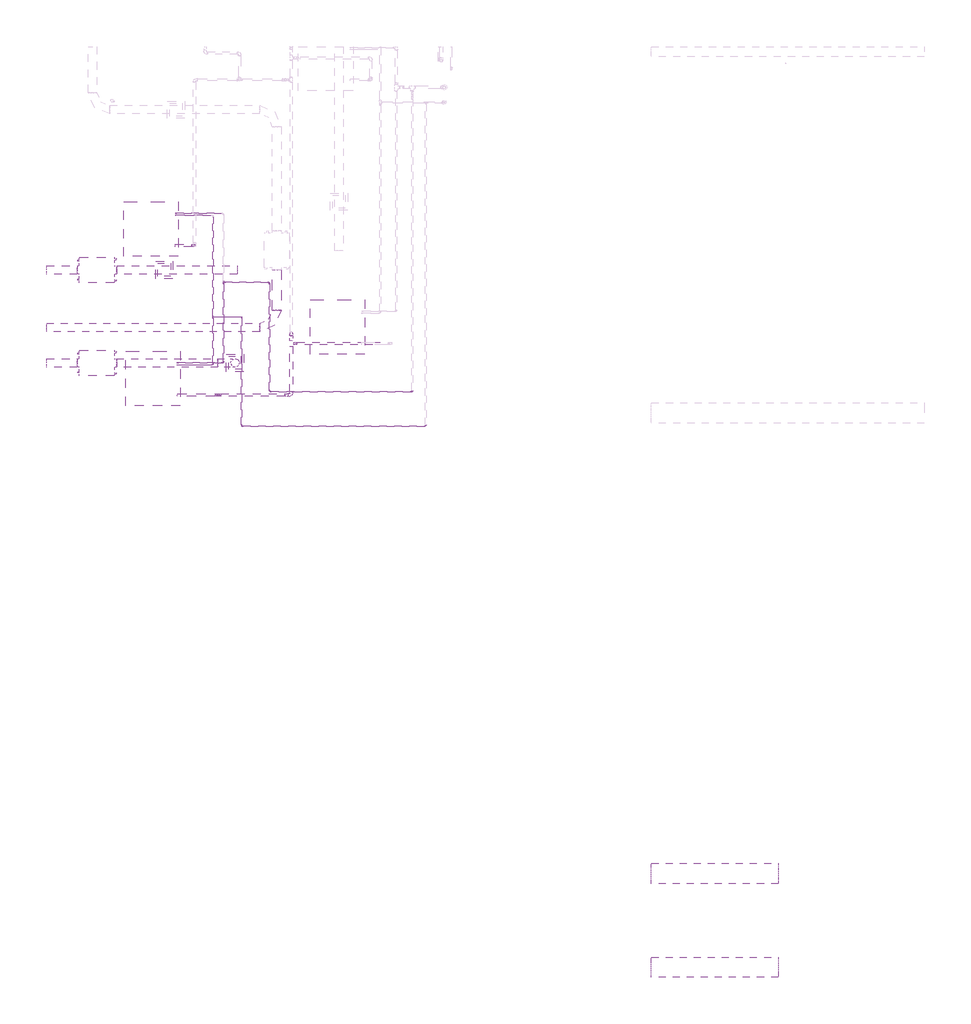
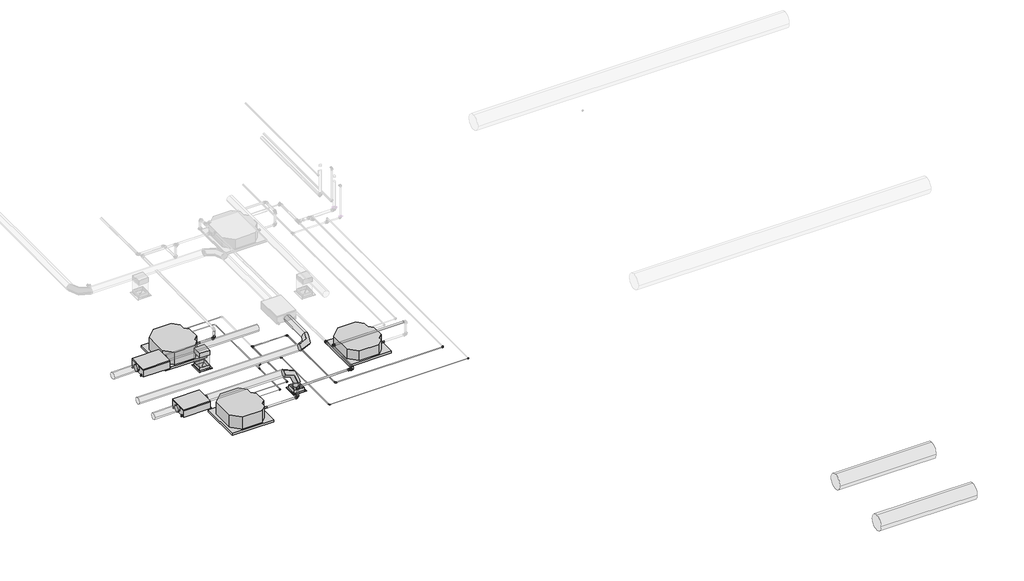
# One storey, part 1 of 21: 22 pipe fittings, 22 pipe segments, 10 duct segments, 5 proxies, 4 duct fittings, 2 air terminals.
"""IFC4 building model written with IfcOpenShell, lengths in millimetres."""

from ifc_helpers import new_model, si_unit, point, frame, frame_2d, origin, place, context, project, spatial, polyline, circle_curve, trimmed, segment, composite_curve, outline, extrude, transform, mapped, element, save
from components import sdq3535_a75e83f7, mechanical_equipment_77aa587a, mechanical_equipment_53173f38, fh_fh_150_19aaf5c2, duct_fitting_834ffa43, duct_fitting_4c01d837, duct_fitting_2_d_e46ba55a, pipe_fitting_b009a99b, pipe_fitting_485d179d, pipe_fitting_757192a1, pipe_fitting_36148165, pipe_fitting_45771724, pipe_fitting_853bb782, pipe_fitting_c900cfc2, pipe_fitting_16c020f5, pipe_fitting_b10472de, pipe_fitting_501e5992, pipe_fitting_59d1f3e3, pipe_fitting_648138cd, pipe_fitting_725bd888

model = new_model("IFC4")

# Units and contexts
model_context = context("Model", 3, world=origin())
ifc_project = project(units=[si_unit("LENGTHUNIT", "METRE", prefix="MILLI")], contexts=[model_context])

# Site, building, storey
site = spatial("IfcSite", under=ifc_project)
building = spatial("IfcBuilding", under=site)
storey = spatial("IfcBuildingStorey", under=building, Name="Nível 1", Elevation=0.0)

# Air terminals
placement = place(None, origin())
sdq3535_shape = sdq3535_a75e83f7(model_context)
element("IfcAirTerminal", 1, ObjectType="11 - Difusor Quadrado : SDQ3535", at=placement, inside=storey, context=model_context, shape_type="MappedRepresentation", body=[
    mapped(sdq3535_shape, transform((-11358.7786565, -6226.2114568, 3000.0), x_axis=(0.0, -1.0, 0.0), y_axis=(1.0, 0.0, 0.0), z_axis=(0.0, 0.0, 1.0))),
])
element("IfcAirTerminal", 2, ObjectType="11 - Difusor Quadrado : SDQ3535", at=placement, inside=storey, context=model_context, shape_type="MappedRepresentation", body=[
    mapped(sdq3535_shape, transform((-10127.886399, -7841.7404447, 3000.0), x_axis=(0.0, 1.0, 0.0), y_axis=(-1.0, 0.0, 0.0), z_axis=(0.0, 0.0, 1.0))),
])

# Proxies
mechanical_equipment_shape = mechanical_equipment_77aa587a(model_context)
element("IfcBuildingElementProxy", 3, Name="Midea_VRF_Indoor_4-way Cassette_MI-56(71,80)Q4_DHN1-D (2nd DC) : MI2-71Q4DHN1", ObjectType="Midea_VRF_Indoor_4-way Cassette_MI-56(71,80)Q4_DHN1-D (2nd DC) : MI2-71Q4DHN1", at=placement, inside=storey, context=model_context, shape_type="MappedRepresentation", body=[
    mapped(mechanical_equipment_shape, transform((-8350.4324434, -7218.7123683, 3000.0), x_axis=(1.0, 0.0, 0.0), y_axis=(0.0, 1.0, 0.0), z_axis=(0.0, 0.0, 1.0))),
])
mechanical_equipment_2_shape = mechanical_equipment_53173f38(model_context)
element("IfcBuildingElementProxy", 4, Name="Midea_VRF_Indoor_4-way Cassette_MI-90(100,112,140)Q4_DHN1-D (2nd DC) : MI2-90Q4DHN1", ObjectType="Midea_VRF_Indoor_4-way Cassette_MI-90(100,112,140)Q4_DHN1-D (2nd DC) : MI2-90Q4DHN1", at=placement, inside=storey, context=model_context, shape_type="MappedRepresentation", body=[
    mapped(mechanical_equipment_2_shape, transform((-11555.0196229, -8114.9512583, 3000.0), x_axis=(1.0, 0.0, 0.0), y_axis=(0.0, 1.0, 0.0), z_axis=(0.0, 0.0, 1.0))),
])
element("IfcBuildingElementProxy", 5, Name="Midea_VRF_Indoor_4-way Cassette_MI-90(100,112,140)Q4_DHN1-D (2nd DC) : MI2-90Q4DHN1", ObjectType="Midea_VRF_Indoor_4-way Cassette_MI-90(100,112,140)Q4_DHN1-D (2nd DC) : MI2-90Q4DHN1", at=placement, inside=storey, context=model_context, shape_type="MappedRepresentation", body=[
    mapped(mechanical_equipment_2_shape, transform((-11592.1617535, -5516.2147432, 3000.0), x_axis=(1.0, 0.0, 0.0), y_axis=(0.0, 1.0, 0.0), z_axis=(0.0, 0.0, 1.0))),
])
fh_fh_150_shape = fh_fh_150_19aaf5c2(model_context)
element("IfcBuildingElementProxy", 6, Name="FH : FH 150", ObjectType="FH : FH 150", at=placement, inside=storey, context=model_context, shape_type="MappedRepresentation", body=[
    mapped(fh_fh_150_shape, transform((-12529.886399, -6226.2114568, 3400.0), x_axis=(0.0, 1.0, 0.0), y_axis=(-1.0, 0.0, 0.0), z_axis=(0.0, 0.0, 1.0))),
])
element("IfcBuildingElementProxy", 7, Name="FH : FH 150", ObjectType="FH : FH 150", at=placement, inside=storey, context=model_context, shape_type="MappedRepresentation", body=[
    mapped(fh_fh_150_shape, transform((-12529.886399, -7841.7404447, 3400.0), x_axis=(0.0, 1.0, 0.0), y_axis=(-1.0, 0.0, 0.0), z_axis=(0.0, 0.0, 1.0))),
])

# Duct fittings
duct_fitting_shape = duct_fitting_834ffa43(model_context)
element("IfcDuctFitting", 8, ObjectType="M_Transição retangular para oval - Ângulo : 45 Graus", at=placement, inside=storey, context=model_context, shape_type="MappedRepresentation", body=[
    mapped(duct_fitting_shape, transform((-10127.886399, -7841.7404447, 3005.0), x_axis=(0.0, 0.0, 1.0), y_axis=(0.0, 1.0, 0.0), z_axis=(-1.0, 0.0, 0.0))),
])
duct_fitting_2_shape = duct_fitting_4c01d837(model_context)
element("IfcDuctFitting", 9, ObjectType="M_Encaixe de duto retangular : Padrão", at=placement, inside=storey, context=model_context, shape_type="MappedRepresentation", body=[
    mapped(duct_fitting_2_shape, transform((-11358.7786565, -6226.2114568, 3418.5), x_axis=(0.0, 0.0, -1.0), y_axis=(-1.0, 0.0, 0.0), z_axis=(0.0, 1.0, 0.0))),
])
duct_fitting_2_d_shape = duct_fitting_2_d_e46ba55a(model_context)
element("IfcDuctFitting", 10, ObjectType="M_Cotovelo redondo : 2 D", at=placement, inside=storey, context=model_context, shape_type="MappedRepresentation", body=[
    mapped(duct_fitting_2_d_shape, transform((-9404.386399, -7226.2114568, 3493.0), x_axis=(1.0, 0.0, 0.0), y_axis=(0.0, 1.0, 0.0), z_axis=(0.0, 0.0, 1.0))),
])
element("IfcDuctFitting", 11, ObjectType="M_Cotovelo redondo : 2 D", at=placement, inside=storey, context=model_context, shape_type="MappedRepresentation", body=[
    mapped(duct_fitting_2_d_shape, transform((-10127.886399, -7841.7404447, 3493.0), x_axis=(0.0, 0.0, 1.0), y_axis=(-1.0, 0.0, 0.0), z_axis=(0.0, -1.0, 0.0))),
])

# Duct segments
element("IfcDuctSegment", 12, ObjectType="Torneiras / Raio curto", at=placement, inside=storey, context=model_context, shape_type="SweptSolid", body=[
    extrude(outline(composite_curve([segment(trimmed(circle_curve(frame_2d((3493.0, -9404.386399)), 74.5), [point((3493.0, -9478.886399))], [point((3418.5, -9404.386399))], False, "CARTESIAN"), True, "CONTINUOUS"), segment(trimmed(circle_curve(frame_2d((3493.0, -9404.386399)), 74.5), [point((3418.5, -9404.386399))], [point((3493.0, -9329.886399))], False, "CARTESIAN"), True, "CONTINUOUS"), segment(trimmed(circle_curve(frame_2d((3493.0, -9404.386399)), 74.5), [point((3493.0, -9329.886399))], [point((3567.5, -9404.386399))], False, "CARTESIAN"), True, "CONTINUOUS"), segment(trimmed(circle_curve(frame_2d((3493.0, -9404.386399)), 74.5), [point((3567.5, -9404.386399))], [point((3493.0, -9478.886399))], False, "CARTESIAN"), True, "CONTINUOUS")], self_intersect=False)), frame((0.0, -6928.2114568, 0.0), z_axis=(0.0, 1.0, 0.0), x_axis=(0.0, 0.0, 1.0)), (0.0, 0.0, 1.0), 702.0),
])
element("IfcDuctSegment", 13, ObjectType="Torneiras / Raio curto", at=placement, inside=storey, context=model_context, shape_type="SweptSolid", body=[
    extrude(outline(composite_curve([segment(trimmed(circle_curve(frame_2d((-7226.2114568, 3493.0)), 74.5), [point((-7151.7114568, 3493.0))], [point((-7226.2114568, 3418.5))], False, "CARTESIAN"), True, "CONTINUOUS"), segment(trimmed(circle_curve(frame_2d((-7226.2114568, 3493.0)), 74.5), [point((-7226.2114568, 3418.5))], [point((-7300.7114568, 3493.0))], False, "CARTESIAN"), True, "CONTINUOUS"), segment(trimmed(circle_curve(frame_2d((-7226.2114568, 3493.0)), 74.5), [point((-7300.7114568, 3493.0))], [point((-7226.2114568, 3567.5))], False, "CARTESIAN"), True, "CONTINUOUS"), segment(trimmed(circle_curve(frame_2d((-7226.2114568, 3493.0)), 74.5), [point((-7226.2114568, 3567.5))], [point((-7151.7114568, 3493.0))], False, "CARTESIAN"), True, "CONTINUOUS")], self_intersect=False)), frame((-13404.386399, 0.0, 0.0), z_axis=(1.0, 0.0, 0.0), x_axis=(0.0, 1.0, 0.0)), (0.0, 0.0, 1.0), 3702.0),
])
element("IfcDuctSegment", 14, ObjectType="Torneiras / Raio curto", at=placement, inside=storey, context=model_context, shape_type="SweptSolid", body=[
    extrude(outline(composite_curve([segment(trimmed(circle_curve(frame_2d((-7841.7404447, 3493.0)), 74.5), [point((-7767.2404447, 3493.0))], [point((-7841.7404447, 3418.5))], False, "CARTESIAN"), True, "CONTINUOUS"), segment(trimmed(circle_curve(frame_2d((-7841.7404447, 3493.0)), 74.5), [point((-7841.7404447, 3418.5))], [point((-7916.2404447, 3493.0))], False, "CARTESIAN"), True, "CONTINUOUS"), segment(trimmed(circle_curve(frame_2d((-7841.7404447, 3493.0)), 74.5), [point((-7916.2404447, 3493.0))], [point((-7841.7404447, 3567.5))], False, "CARTESIAN"), True, "CONTINUOUS"), segment(trimmed(circle_curve(frame_2d((-7841.7404447, 3493.0)), 74.5), [point((-7841.7404447, 3567.5))], [point((-7767.2404447, 3493.0))], False, "CARTESIAN"), True, "CONTINUOUS")], self_intersect=False)), frame((-13404.386399, 0.0, 0.0), z_axis=(1.0, 0.0, 0.0), x_axis=(0.0, 1.0, 0.0)), (0.0, 0.0, 1.0), 532.5),
])
element("IfcDuctSegment", 15, ObjectType="Torneiras / Raio curto", at=placement, inside=storey, context=model_context, shape_type="SweptSolid", body=[
    extrude(outline(composite_curve([segment(trimmed(circle_curve(frame_2d((-6226.2114568, 3493.0)), 74.5), [point((-6151.7114568, 3493.0))], [point((-6226.2114568, 3418.5))], False, "CARTESIAN"), True, "CONTINUOUS"), segment(trimmed(circle_curve(frame_2d((-6226.2114568, 3493.0)), 74.5), [point((-6226.2114568, 3418.5))], [point((-6300.7114568, 3493.0))], False, "CARTESIAN"), True, "CONTINUOUS"), segment(trimmed(circle_curve(frame_2d((-6226.2114568, 3493.0)), 74.5), [point((-6300.7114568, 3493.0))], [point((-6226.2114568, 3567.5))], False, "CARTESIAN"), True, "CONTINUOUS"), segment(trimmed(circle_curve(frame_2d((-6226.2114568, 3493.0)), 74.5), [point((-6226.2114568, 3567.5))], [point((-6151.7114568, 3493.0))], False, "CARTESIAN"), True, "CONTINUOUS")], self_intersect=False)), frame((-13404.386399, 0.0, 0.0), z_axis=(1.0, 0.0, 0.0), x_axis=(0.0, 1.0, 0.0)), (0.0, 0.0, 1.0), 532.5),
])
element("IfcDuctSegment", 16, ObjectType="Torneiras / Raio curto", at=placement, inside=storey, context=model_context, shape_type="SweptSolid", body=[
    extrude(outline(composite_curve([segment(trimmed(circle_curve(frame_2d((-6226.2114568, 3493.0)), 74.5), [point((-6300.7114568, 3493.0))], [point((-6226.2114568, 3567.5))], False, "CARTESIAN"), True, "CONTINUOUS"), segment(trimmed(circle_curve(frame_2d((-6226.2114568, 3493.0)), 74.5), [point((-6226.2114568, 3567.5))], [point((-6151.7114568, 3493.0))], False, "CARTESIAN"), True, "CONTINUOUS"), segment(trimmed(circle_curve(frame_2d((-6226.2114568, 3493.0)), 74.5), [point((-6151.7114568, 3493.0))], [point((-6226.2114568, 3418.5))], False, "CARTESIAN"), True, "CONTINUOUS"), segment(trimmed(circle_curve(frame_2d((-6226.2114568, 3493.0)), 74.5), [point((-6226.2114568, 3418.5))], [point((-6300.7114568, 3493.0))], False, "CARTESIAN"), True, "CONTINUOUS")], self_intersect=False)), frame((-12187.886399, 0.0, 0.0), z_axis=(1.0, 0.0, 0.0), x_axis=(0.0, 1.0, 0.0)), (0.0, 0.0, 1.0), 2100.0),
])
element("IfcDuctSegment", 17, ObjectType="Torneiras / Raio curto", at=placement, inside=storey, context=model_context, shape_type="SweptSolid", body=[
    extrude(outline(composite_curve([segment(trimmed(circle_curve(frame_2d((-7841.7404447, 3493.0)), 74.5), [point((-7916.2404447, 3493.0))], [point((-7841.7404447, 3567.5))], False, "CARTESIAN"), True, "CONTINUOUS"), segment(trimmed(circle_curve(frame_2d((-7841.7404447, 3493.0)), 74.5), [point((-7841.7404447, 3567.5))], [point((-7767.2404447, 3493.0))], False, "CARTESIAN"), True, "CONTINUOUS"), segment(trimmed(circle_curve(frame_2d((-7841.7404447, 3493.0)), 74.5), [point((-7767.2404447, 3493.0))], [point((-7841.7404447, 3418.5))], False, "CARTESIAN"), True, "CONTINUOUS"), segment(trimmed(circle_curve(frame_2d((-7841.7404447, 3493.0)), 74.5), [point((-7841.7404447, 3418.5))], [point((-7916.2404447, 3493.0))], False, "CARTESIAN"), True, "CONTINUOUS")], self_intersect=False)), frame((-12187.886399, 0.0, 0.0), z_axis=(1.0, 0.0, 0.0), x_axis=(0.0, 1.0, 0.0)), (0.0, 0.0, 1.0), 1762.0),
])
element("IfcDuctSegment", 18, ObjectType="Raios cotovelos / torneiras", at=placement, inside=storey, context=model_context, shape_type="SweptSolid", body=[
    extrude(outline(polyline([(-11246.2786565, -6338.7114568), (-11471.2786565, -6338.7114568), (-11471.2786565, -6113.7114568), (-11246.2786565, -6113.7114568), (-11246.2786565, -6338.7114568)])), frame((0.0, 0.0, 3005.0), z_axis=(0.0, 0.0, 1.0), x_axis=(1.0, 0.0, 0.0)), (0.0, 0.0, 1.0), 311.9),
])
element("IfcDuctSegment", 19, ObjectType="Torneiras / Raio curto", at=placement, inside=storey, context=model_context, shape_type="SweptSolid", body=[
    extrude(outline(composite_curve([segment(trimmed(circle_curve(frame_2d((-10127.886399, -7841.7404447)), 74.5), [point((-10127.886399, -7767.2404447))], [point((-10053.386399, -7841.7404447))], False, "CARTESIAN"), True, "CONTINUOUS"), segment(trimmed(circle_curve(frame_2d((-10127.886399, -7841.7404447)), 74.5), [point((-10053.386399, -7841.7404447))], [point((-10127.886399, -7916.2404447))], False, "CARTESIAN"), True, "CONTINUOUS"), segment(trimmed(circle_curve(frame_2d((-10127.886399, -7841.7404447)), 74.5), [point((-10127.886399, -7916.2404447))], [point((-10202.386399, -7841.7404447))], False, "CARTESIAN"), True, "CONTINUOUS"), segment(trimmed(circle_curve(frame_2d((-10127.886399, -7841.7404447)), 74.5), [point((-10202.386399, -7841.7404447))], [point((-10127.886399, -7767.2404447))], False, "CARTESIAN"), True, "CONTINUOUS")], self_intersect=False)), frame((0.0, 0.0, 3096.7401154), z_axis=(0.0, 0.0, 1.0), x_axis=(1.0, 0.0, 0.0)), (0.0, 0.0, 1.0), 98.2598846),
])
element("IfcDuctSegment", 20, ObjectType="Torneiras / Raio curto", at=placement, inside=storey, context=model_context, shape_type="SweptSolid", body=[
    extrude(outline(composite_curve([segment(trimmed(circle_curve(frame_2d((-16711.4180027, 3605.0)), 177.5), [point((-16533.9180027, 3605.0))], [point((-16711.4180027, 3427.5))], False, "CARTESIAN"), True, "CONTINUOUS"), segment(trimmed(circle_curve(frame_2d((-16711.4180027, 3605.0)), 177.5), [point((-16711.4180027, 3427.5))], [point((-16888.9180027, 3605.0))], False, "CARTESIAN"), True, "CONTINUOUS"), segment(trimmed(circle_curve(frame_2d((-16711.4180027, 3605.0)), 177.5), [point((-16888.9180027, 3605.0))], [point((-16711.4180027, 3782.5))], False, "CARTESIAN"), True, "CONTINUOUS"), segment(trimmed(circle_curve(frame_2d((-16711.4180027, 3605.0)), 177.5), [point((-16711.4180027, 3782.5))], [point((-16533.9180027, 3605.0))], False, "CARTESIAN"), True, "CONTINUOUS")], self_intersect=False)), frame((-2892.5218355, 0.0, 0.0), z_axis=(1.0, 0.0, 0.0), x_axis=(0.0, 1.0, 0.0)), (0.0, 0.0, 1.0), 2200.0),
])
element("IfcDuctSegment", 21, ObjectType="Torneiras / Raio curto", at=placement, inside=storey, context=model_context, shape_type="SweptSolid", body=[
    extrude(outline(composite_curve([segment(trimmed(circle_curve(frame_2d((-18343.7697994, 3605.0)), 177.5), [point((-18166.2697994, 3605.0))], [point((-18343.7697994, 3427.5))], False, "CARTESIAN"), True, "CONTINUOUS"), segment(trimmed(circle_curve(frame_2d((-18343.7697994, 3605.0)), 177.5), [point((-18343.7697994, 3427.5))], [point((-18521.2697994, 3605.0))], False, "CARTESIAN"), True, "CONTINUOUS"), segment(trimmed(circle_curve(frame_2d((-18343.7697994, 3605.0)), 177.5), [point((-18521.2697994, 3605.0))], [point((-18343.7697994, 3782.5))], False, "CARTESIAN"), True, "CONTINUOUS"), segment(trimmed(circle_curve(frame_2d((-18343.7697994, 3605.0)), 177.5), [point((-18343.7697994, 3782.5))], [point((-18166.2697994, 3605.0))], False, "CARTESIAN"), True, "CONTINUOUS")], self_intersect=False)), frame((-2892.5218355, 0.0, 0.0), z_axis=(1.0, 0.0, 0.0), x_axis=(0.0, 1.0, 0.0)), (0.0, 0.0, 1.0), 2200.0),
])

# Pipe fittings
pipe_fitting_shape = pipe_fitting_b009a99b(model_context)
element("IfcPipeFitting", 22, ObjectType="Cotovelo - PVC - CW : Padrão", at=placement, inside=storey, context=model_context, shape_type="MappedRepresentation", body=[
    mapped(pipe_fitting_shape, transform((-10424.419623, -8399.9512583, 3252.3), x_axis=(0.0, 0.0, -1.0), y_axis=(-1.0, 0.0, 0.0), z_axis=(0.0, 1.0, 0.0))),
])
pipe_fitting_2_shape = pipe_fitting_485d179d(model_context)
element("IfcPipeFitting", 23, ObjectType="Cotovelo - PVC - CW : Padrão", at=placement, inside=storey, context=model_context, shape_type="MappedRepresentation", body=[
    mapped(pipe_fitting_2_shape, transform((-10424.419623, -8399.9512583, 3493.1989554), x_axis=(0.0, 0.0, 1.0), y_axis=(0.9999999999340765, -1.1482468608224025e-05, 0.0), z_axis=(1.1482468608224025e-05, 0.9999999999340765, 0.0))),
])
pipe_fitting_3_shape = pipe_fitting_757192a1(model_context)
element("IfcPipeFitting", 24, ObjectType="Cotovelo - PVC - CW : Padrão", at=placement, inside=storey, context=model_context, shape_type="MappedRepresentation", body=[
    mapped(pipe_fitting_3_shape, transform((-9153.185193, -8399.9658552, 3505.8260576), x_axis=(0.9999506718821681, -1.148190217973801e-05, 0.009932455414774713), y_axis=(0.00010803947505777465, 0.9999527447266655, -0.00972093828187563), z_axis=(-0.009931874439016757, 0.009721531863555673, 0.9999034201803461))),
])
pipe_fitting_4_shape = pipe_fitting_36148165(model_context)
element("IfcPipeFitting", 25, ObjectType="Redutor de acoplamento - PVC - CW : Padrão", at=placement, inside=storey, context=model_context, shape_type="MappedRepresentation", body=[
    mapped(pipe_fitting_4_shape, transform((-9105.585193, -7503.7123683, 3497.1122592), x_axis=(1.0, 0.0, 0.0), y_axis=(0.0, 0.9999527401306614, -0.009722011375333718), z_axis=(0.0, 0.009722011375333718, 0.9999527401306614))),
])
pipe_fitting_5_shape = pipe_fitting_45771724(model_context)
element("IfcPipeFitting", 26, ObjectType="Cotovelo - PVC - CW : Padrão", at=placement, inside=storey, context=model_context, shape_type="MappedRepresentation", body=[
    mapped(pipe_fitting_5_shape, transform((-10832.1622686, -5801.2147432, 3252.3010078), x_axis=(0.9999999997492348, 0.0, -2.2394877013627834e-05), y_axis=(2.2394877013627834e-05, 0.0, 0.9999999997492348), z_axis=(0.0, -1.0, 0.0))),
])
pipe_fitting_6_shape = pipe_fitting_853bb782(model_context)
element("IfcPipeFitting", 27, ObjectType="Redutor de acoplamento - PVC - CW : Padrão", at=placement, inside=storey, context=model_context, shape_type="MappedRepresentation", body=[
    mapped(pipe_fitting_6_shape, transform((-9207.1855545, -8399.9652352, 3505.289675), x_axis=(-0.9999506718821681, 1.148190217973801e-05, -0.009932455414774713), y_axis=(-0.00010803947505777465, -0.9999527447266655, 0.00972093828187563), z_axis=(-0.009931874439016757, 0.009721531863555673, 0.9999034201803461))),
])
element("IfcPipeFitting", 28, ObjectType="Redutor de acoplamento - PVC - CW : Padrão", at=placement, inside=storey, context=model_context, shape_type="MappedRepresentation", body=[
    mapped(pipe_fitting_6_shape, transform((-9153.185193, -7366.7690646, 3495.7808319), x_axis=(0.0, 0.9999527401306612, -0.009722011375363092), y_axis=(-1.0000000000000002, 0.0, 0.0), z_axis=(0.0, 0.009722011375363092, 0.9999527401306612))),
])
pipe_fitting_7_shape = pipe_fitting_c900cfc2(model_context)
element("IfcPipeFitting", 29, ObjectType="Bucha de redução reta - Soldada - CU : Padrão", at=placement, inside=storey, context=model_context, shape_type="MappedRepresentation", body=[
    mapped(pipe_fitting_7_shape, transform((-11167.1617535, -5243.0039295, 3252.3085101), x_axis=(1.0, 0.0, 0.0), y_axis=(0.0, 1.0, 0.0), z_axis=(0.0, 0.0, 1.0))),
])
pipe_fitting_8_shape = pipe_fitting_16c020f5(model_context)
element("IfcPipeFitting", 30, ObjectType="Cotovelo - Soldado - CU : Padrão", at=placement, inside=storey, context=model_context, shape_type="MappedRepresentation", body=[
    mapped(pipe_fitting_8_shape, transform((-9530.0196229, -6442.3721871, 3252.3089164), x_axis=(0.0, 0.9999999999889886, 4.69285938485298e-06), y_axis=(-0.999999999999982, 0.0, 1.9041490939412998e-07), z_axis=(1.904149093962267e-07, -4.692859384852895e-06, 0.9999999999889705))),
])
element("IfcPipeFitting", 31, ObjectType="Cotovelo - Soldado - CU : Padrão", at=placement, inside=storey, context=model_context, shape_type="MappedRepresentation", body=[
    mapped(pipe_fitting_8_shape, transform((-9530.0196229, -8342.3721871, 3252.3), x_axis=(0.0, -0.9999999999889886, -4.692859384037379e-06), y_axis=(1.0, 0.0, 0.0), z_axis=(0.0, -4.692859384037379e-06, 0.9999999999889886))),
])
element("IfcPipeFitting", 32, ObjectType="Cotovelo - Soldado - CU : Padrão", at=placement, inside=storey, context=model_context, shape_type="MappedRepresentation", body=[
    mapped(pipe_fitting_8_shape, transform((-7050.0196229, -8342.3721871, 3252.3), x_axis=(1.0, 0.0, 0.0), y_axis=(0.0, 1.0, 0.0), z_axis=(0.0, 0.0, 1.0))),
])
element("IfcPipeFitting", 33, ObjectType="Cotovelo - Soldado - CU : Padrão", at=placement, inside=storey, context=model_context, shape_type="MappedRepresentation", body=[
    mapped(pipe_fitting_8_shape, transform((-10330.0196229, -7841.7404447, 3252.3096274), x_axis=(0.9999999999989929, 0.0, 1.4192020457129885e-06), y_axis=(0.0, 0.9999999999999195, -4.012325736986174e-07), z_axis=(-1.4192020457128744e-06, 4.0123257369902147e-07, 0.9999999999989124))),
])
pipe_fitting_9_shape = pipe_fitting_b10472de(model_context)
element("IfcPipeFitting", 34, ObjectType="Tê - Soldado - CU : Padrão", at=placement, inside=storey, context=model_context, shape_type="MappedRepresentation", body=[
    mapped(pipe_fitting_9_shape, transform((-10330.0196229, -6442.3721871, 3252.3090688), x_axis=(0.0, -0.9999999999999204, 3.991825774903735e-07), y_axis=(-0.999999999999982, 0.0, 1.9041490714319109e-07), z_axis=(-1.9041490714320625e-07, -3.9918257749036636e-07, -0.9999999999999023))),
])
pipe_fitting_10_shape = pipe_fitting_501e5992(model_context)
element("IfcPipeFitting", 35, ObjectType="Bucha de redução reta - Soldada - CU : Padrão", at=placement, inside=storey, context=model_context, shape_type="MappedRepresentation", body=[
    mapped(pipe_fitting_10_shape, transform((-11117.3607229, -7841.7404447, 3252.308528), x_axis=(-0.9999999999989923, 0.0, -1.4197634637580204e-06), y_axis=(0.0, -1.0000000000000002, 0.0), z_axis=(-1.4197634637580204e-06, 0.0, 0.9999999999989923))),
])
pipe_fitting_11_shape = pipe_fitting_59d1f3e3(model_context)
element("IfcPipeFitting", 36, ObjectType="Bucha de redução reta - Soldada - CU : Padrão", at=placement, inside=storey, context=model_context, shape_type="MappedRepresentation", body=[
    mapped(pipe_fitting_11_shape, transform((-11130.0196229, -7875.5428865, 3146.8446487), x_axis=(1.0, 0.0, 0.0), y_axis=(0.0, 1.0, 0.0), z_axis=(0.0, 0.0, 1.0))),
])
element("IfcPipeFitting", 37, ObjectType="Bucha de redução reta - Soldada - CU : Padrão", at=placement, inside=storey, context=model_context, shape_type="MappedRepresentation", body=[
    mapped(pipe_fitting_11_shape, transform((-11167.1617535, -5276.8063713, 3146.8446487), x_axis=(1.0, 0.0, 0.0), y_axis=(0.0, 1.0, 0.0), z_axis=(0.0, 0.0, 1.0))),
])
pipe_fitting_12_shape = pipe_fitting_648138cd(model_context)
element("IfcPipeFitting", 38, ObjectType="Cotovelo - Soldado - CU : Padrão", at=placement, inside=storey, context=model_context, shape_type="MappedRepresentation", body=[
    mapped(pipe_fitting_12_shape, transform((-10014.7796229, -8942.9004637, 3252.3), x_axis=(0.0, -1.0, 0.0), y_axis=(1.0, 0.0, 0.0), z_axis=(0.0, 0.0, 1.0))),
])
element("IfcPipeFitting", 39, ObjectType="Cotovelo - Soldado - CU : Padrão", at=placement, inside=storey, context=model_context, shape_type="MappedRepresentation", body=[
    mapped(pipe_fitting_12_shape, transform((-6814.7796229, -8942.9004637, 3252.3), x_axis=(1.0, 0.0, 0.0), y_axis=(0.0, 1.0, 0.0), z_axis=(0.0, 0.0, 1.0))),
])
element("IfcPipeFitting", 40, ObjectType="Cotovelo - Soldado - CU : Padrão", at=placement, inside=storey, context=model_context, shape_type="MappedRepresentation", body=[
    mapped(pipe_fitting_12_shape, transform((-10510.0196229, -7875.5428865, 3146.8446487), x_axis=(1.0, 0.0, 0.0), y_axis=(0.0, 1.0, 0.0), z_axis=(0.0, 0.0, 1.0))),
])
element("IfcPipeFitting", 41, ObjectType="Cotovelo - Soldado - CU : Padrão", at=placement, inside=storey, context=model_context, shape_type="MappedRepresentation", body=[
    mapped(pipe_fitting_12_shape, transform((-10510.0196229, -7042.9004637, 3252.3), x_axis=(0.0, 0.0, 1.0), y_axis=(1.0, 0.0, 0.0), z_axis=(0.0, 1.0, 0.0))),
])
element("IfcPipeFitting", 42, ObjectType="Cotovelo - Soldado - CU : Padrão", at=placement, inside=storey, context=model_context, shape_type="MappedRepresentation", body=[
    mapped(pipe_fitting_12_shape, transform((-10014.7796229, -7042.9004637, 3252.3), x_axis=(0.0, 1.0, 0.0), y_axis=(-1.0, 0.0, 0.0), z_axis=(0.0, 0.0, 1.0))),
])
pipe_fitting_13_shape = pipe_fitting_725bd888(model_context)
element("IfcPipeFitting", 43, ObjectType="Tê - Soldado - CU : Padrão", at=placement, inside=storey, context=model_context, shape_type="MappedRepresentation", body=[
    mapped(pipe_fitting_13_shape, transform((-10510.0196229, -7042.9004637, 3146.8446487), x_axis=(0.0, 1.0, 0.0), y_axis=(0.0, 0.0, -1.0), z_axis=(-1.0, 0.0, 0.0))),
])

# Pipe segments
element("IfcPipeSegment", 44, ObjectType="Tubos de cobre HVAC", at=placement, inside=storey, context=model_context, shape_type="SweptSolid", body=[
    extrude(outline(composite_curve([segment(trimmed(circle_curve(frame_2d((-7841.7404447, 3252.3095863)), 7.935), [point((-7833.8054447, 3252.3095863))], [point((-7841.7404447, 3244.3745863))], False, "CARTESIAN"), True, "CONTINUOUS"), segment(trimmed(circle_curve(frame_2d((-7841.7404447, 3252.3095863)), 7.935), [point((-7841.7404447, 3244.3745863))], [point((-7849.6754447, 3252.3095863))], False, "CARTESIAN"), True, "CONTINUOUS"), segment(trimmed(circle_curve(frame_2d((-7841.7404447, 3252.3095863)), 7.935), [point((-7849.6754447, 3252.3095863))], [point((-7841.7404447, 3260.2445863))], False, "CARTESIAN"), True, "CONTINUOUS"), segment(trimmed(circle_curve(frame_2d((-7841.7404447, 3252.3095863)), 7.935), [point((-7841.7404447, 3260.2445863))], [point((-7833.8054447, 3252.3095863))], False, "CARTESIAN"), True, "CONTINUOUS")], self_intersect=False)), frame((-11117.3607229, 0.0, 0.0), z_axis=(1.0, 0.0, 0.0), x_axis=(0.0, 1.0, 0.0)), (0.0, 0.0, 1.0), 758.3625),
])
element("IfcPipeSegment", 45, ObjectType="Tubos de cobre HVAC", at=placement, inside=storey, context=model_context, shape_type="SweptSolid", body=[
    extrude(outline(composite_curve([segment(trimmed(circle_curve(frame_2d((-5243.0039295, 3252.3085101)), 7.935), [point((-5250.9389295, 3252.3085101))], [point((-5243.0039295, 3260.2435101))], False, "CARTESIAN"), True, "CONTINUOUS"), segment(trimmed(circle_curve(frame_2d((-5243.0039295, 3252.3085101)), 7.935), [point((-5243.0039295, 3260.2435101))], [point((-5235.0689295, 3252.3085101))], False, "CARTESIAN"), True, "CONTINUOUS"), segment(trimmed(circle_curve(frame_2d((-5243.0039295, 3252.3085101)), 7.935), [point((-5235.0689295, 3252.3085101))], [point((-5243.0039295, 3244.3735101))], False, "CARTESIAN"), True, "CONTINUOUS"), segment(trimmed(circle_curve(frame_2d((-5243.0039295, 3252.3085101)), 7.935), [point((-5243.0039295, 3244.3735101))], [point((-5250.9389295, 3252.3085101))], False, "CARTESIAN"), True, "CONTINUOUS")], self_intersect=False)), frame((-11154.5028535, 0.0, 0.0), z_axis=(1.0, 0.0, 0.0), x_axis=(0.0, 1.0, 0.0)), (0.0, 0.0, 1.0), 795.5046305),
])
element("IfcPipeSegment", 46, ObjectType="Tubos de cobre HVAC", at=placement, inside=storey, context=model_context, shape_type="SweptSolid", body=[
    extrude(outline(composite_curve([segment(trimmed(circle_curve(frame_2d((-6442.3721871, 3252.3090635)), 7.935), [point((-6450.3071871, 3252.3090635))], [point((-6442.3721871, 3260.2440635))], False, "CARTESIAN"), True, "CONTINUOUS"), segment(trimmed(circle_curve(frame_2d((-6442.3721871, 3252.3090635)), 7.935), [point((-6442.3721871, 3260.2440635))], [point((-6434.4371871, 3252.3090635))], False, "CARTESIAN"), True, "CONTINUOUS"), segment(trimmed(circle_curve(frame_2d((-6442.3721871, 3252.3090635)), 7.935), [point((-6434.4371871, 3252.3090635))], [point((-6442.3721871, 3244.3740635))], False, "CARTESIAN"), True, "CONTINUOUS"), segment(trimmed(circle_curve(frame_2d((-6442.3721871, 3252.3090635)), 7.935), [point((-6442.3721871, 3244.3740635))], [point((-6450.3071871, 3252.3090635))], False, "CARTESIAN"), True, "CONTINUOUS")], self_intersect=False)), frame((-10302.4349229, 0.0, 0.0), z_axis=(1.0, 0.0, 0.0), x_axis=(0.0, 1.0, 0.0)), (0.0, 0.0, 1.0), 743.4367),
])
element("IfcPipeSegment", 47, ObjectType="Tubos de cobre HVAC", at=placement, inside=storey, context=model_context, shape_type="SweptSolid", body=[
    extrude(outline(composite_curve([segment(trimmed(circle_curve(frame_2d((-7875.5428865, 3146.8446487)), 4.76), [point((-7880.3028865, 3146.8446487))], [point((-7875.5428865, 3151.6046487))], False, "CARTESIAN"), True, "CONTINUOUS"), segment(trimmed(circle_curve(frame_2d((-7875.5428865, 3146.8446487)), 4.76), [point((-7875.5428865, 3151.6046487))], [point((-7870.7828865, 3146.8446487))], False, "CARTESIAN"), True, "CONTINUOUS"), segment(trimmed(circle_curve(frame_2d((-7875.5428865, 3146.8446487)), 4.76), [point((-7870.7828865, 3146.8446487))], [point((-7875.5428865, 3142.0846487))], False, "CARTESIAN"), True, "CONTINUOUS"), segment(trimmed(circle_curve(frame_2d((-7875.5428865, 3146.8446487)), 4.76), [point((-7875.5428865, 3142.0846487))], [point((-7880.3028865, 3146.8446487))], False, "CARTESIAN"), True, "CONTINUOUS")], self_intersect=False)), frame((-11120.3452229, 0.0, 0.0), z_axis=(1.0, 0.0, 0.0), x_axis=(0.0, 1.0, 0.0)), (0.0, 0.0, 1.0), 586.3),
])
element("IfcPipeSegment", 48, ObjectType="Tubos de cobre HVAC", at=placement, inside=storey, context=model_context, shape_type="SweptSolid", body=[
    extrude(outline(composite_curve([segment(trimmed(circle_curve(frame_2d((-5276.8063713, 3146.8446487)), 4.76), [point((-5281.5663713, 3146.8446487))], [point((-5276.8063713, 3151.6046487))], False, "CARTESIAN"), True, "CONTINUOUS"), segment(trimmed(circle_curve(frame_2d((-5276.8063713, 3146.8446487)), 4.76), [point((-5276.8063713, 3151.6046487))], [point((-5272.0463713, 3146.8446487))], False, "CARTESIAN"), True, "CONTINUOUS"), segment(trimmed(circle_curve(frame_2d((-5276.8063713, 3146.8446487)), 4.76), [point((-5272.0463713, 3146.8446487))], [point((-5276.8063713, 3142.0846487))], False, "CARTESIAN"), True, "CONTINUOUS"), segment(trimmed(circle_curve(frame_2d((-5276.8063713, 3146.8446487)), 4.76), [point((-5276.8063713, 3142.0846487))], [point((-5281.5663713, 3146.8446487))], False, "CARTESIAN"), True, "CONTINUOUS")], self_intersect=False)), frame((-11157.4873535, 0.0, 0.0), z_axis=(1.0, 0.0, 0.0), x_axis=(0.0, 1.0, 0.0)), (0.0, 0.0, 1.0), 623.4421305),
])
element("IfcPipeSegment", 49, ObjectType="Plástico", at=placement, inside=storey, context=model_context, shape_type="SweptSolid", body=[
    extrude(outline(composite_curve([segment(trimmed(circle_curve(frame_2d((0.0, 25.0)), 25.0), [point((-25.0, 25.0))], [point((0.0, 50.0))], False, "CARTESIAN"), True, "CONTINUOUS"), segment(trimmed(circle_curve(frame_2d((0.0, 25.0)), 25.0), [point((0.0, 50.0))], [point((25.0, 25.0))], False, "CARTESIAN"), True, "CONTINUOUS"), segment(trimmed(circle_curve(frame_2d((0.0, 25.0)), 25.0), [point((25.0, 25.0))], [point((0.0, 0.0))], False, "CARTESIAN"), True, "CONTINUOUS"), segment(trimmed(circle_curve(frame_2d((0.0, 25.0)), 25.0), [point((0.0, 0.0))], [point((-25.0, 25.0))], False, "CARTESIAN"), True, "CONTINUOUS")], self_intersect=False)), frame((-9153.185193, -7554.3030391, 3472.602944), z_axis=(0.0, -0.9999527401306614, 0.009722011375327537), x_axis=(1.0, 0.0, 0.0)), (0.0, 0.0, 1.0), 791.9428203),
])
element("IfcPipeSegment", 50, ObjectType="Plástico", at=placement, inside=storey, context=model_context, shape_type="SweptSolid", body=[
    extrude(outline(composite_curve([segment(trimmed(circle_curve(frame_2d((0.0, 20.0)), 20.0), [point((-0.0231211, 1.33e-05))], [point((-19.9999866, 20.0231211))], False, "CARTESIAN"), True, "CONTINUOUS"), segment(trimmed(circle_curve(frame_2d((0.0, 20.0)), 20.0), [point((-19.9999866, 20.0231211))], [point((0.023121, 39.9999866))], False, "CARTESIAN"), True, "CONTINUOUS"), segment(trimmed(circle_curve(frame_2d((0.0, 20.0)), 20.0), [point((0.023121, 39.9999866))], [point((19.9999866, 19.9768789))], False, "CARTESIAN"), True, "CONTINUOUS"), segment(trimmed(circle_curve(frame_2d((0.0, 20.0)), 20.0), [point((19.9999866, 19.9768789))], [point((-0.0231211, 1.33e-05))], False, "CARTESIAN"), True, "CONTINUOUS")], self_intersect=False)), frame((-10379.6491547, -8419.951759, 3493.6205381), z_axis=(0.9999506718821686, -1.1481902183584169e-05, 0.009932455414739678), x_axis=(0.009932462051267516, 0.0011559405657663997, -0.9999500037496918)), (0.0, 0.0, 1.0), 1111.3214384),
])
element("IfcPipeSegment", 51, ObjectType="Plástico", at=placement, inside=storey, context=model_context, shape_type="SweptSolid", body=[
    extrude(outline(composite_curve([segment(trimmed(circle_curve(frame_2d((0.0, 20.0)), 20.0), [point((-20.0, 20.0))], [point((0.0, 40.0))], False, "CARTESIAN"), True, "CONTINUOUS"), segment(trimmed(circle_curve(frame_2d((0.0, 20.0)), 20.0), [point((0.0, 40.0))], [point((20.0, 20.0))], False, "CARTESIAN"), True, "CONTINUOUS"), segment(trimmed(circle_curve(frame_2d((0.0, 20.0)), 20.0), [point((20.0, 20.0))], [point((0.0, 0.0))], False, "CARTESIAN"), True, "CONTINUOUS"), segment(trimmed(circle_curve(frame_2d((0.0, 20.0)), 20.0), [point((0.0, 0.0))], [point((-20.0, 20.0))], False, "CARTESIAN"), True, "CONTINUOUS")], self_intersect=False)), frame((-10469.4201416, -8399.9512583, 3232.3005427), z_axis=(-0.9999999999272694, 0.0, 1.2060733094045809e-05), x_axis=(0.0, -1.0, 0.0)), (0.0, 0.0, 1.0), 660.5997226),
])
element("IfcPipeSegment", 52, ObjectType="Plástico", at=placement, inside=storey, context=model_context, shape_type="SweptSolid", body=[
    extrude(outline(composite_curve([segment(trimmed(circle_curve(frame_2d((-10424.419623, -8399.9512583)), 20.0), [point((-10404.419623, -8399.9512583))], [point((-10424.419623, -8419.9512583))], False, "CARTESIAN"), True, "CONTINUOUS"), segment(trimmed(circle_curve(frame_2d((-10424.419623, -8399.9512583)), 20.0), [point((-10424.419623, -8419.9512583))], [point((-10444.419623, -8399.9512583))], False, "CARTESIAN"), True, "CONTINUOUS"), segment(trimmed(circle_curve(frame_2d((-10424.419623, -8399.9512583)), 20.0), [point((-10444.419623, -8399.9512583))], [point((-10424.419623, -8379.9512583))], False, "CARTESIAN"), True, "CONTINUOUS"), segment(trimmed(circle_curve(frame_2d((-10424.419623, -8399.9512583)), 20.0), [point((-10424.419623, -8379.9512583))], [point((-10404.419623, -8399.9512583))], False, "CARTESIAN"), True, "CONTINUOUS")], self_intersect=False)), frame((0.0, 0.0, 3297.3002774), z_axis=(0.0, 0.0, 1.0), x_axis=(1.0, 0.0, 0.0)), (0.0, 0.0, 1.0), 151.1260012),
])
element("IfcPipeSegment", 53, ObjectType="Plástico", at=placement, inside=storey, context=model_context, shape_type="SweptSolid", body=[
    extrude(outline(composite_curve([segment(trimmed(circle_curve(frame_2d((0.0, 20.0)), 20.0), [point((0.0, 0.0))], [point((-20.0, 20.0))], False, "CARTESIAN"), True, "CONTINUOUS"), segment(trimmed(circle_curve(frame_2d((0.0, 20.0)), 20.0), [point((-20.0, 20.0))], [point((0.0, 40.0))], False, "CARTESIAN"), True, "CONTINUOUS"), segment(trimmed(circle_curve(frame_2d((0.0, 20.0)), 20.0), [point((0.0, 40.0))], [point((20.0, 20.0))], False, "CARTESIAN"), True, "CONTINUOUS"), segment(trimmed(circle_curve(frame_2d((0.0, 20.0)), 20.0), [point((20.0, 20.0))], [point((0.0, 0.0))], False, "CARTESIAN"), True, "CONTINUOUS")], self_intersect=False)), frame((-9052.655993, -7523.7123683, 3497.1122592), z_axis=(0.9999983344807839, 0.0, 0.0018251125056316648), x_axis=(0.0018251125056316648, 0.0, -0.9999983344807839)), (0.0, 0.0, 1.0), 1582.1842438),
])
element("IfcPipeSegment", 54, ObjectType="Plástico", at=placement, inside=storey, context=model_context, shape_type="SweptSolid", body=[
    extrude(outline(composite_curve([segment(trimmed(circle_curve(frame_2d((0.0, -20.0)), 20.0), [point((-20.0, -20.0))], [point((0.0, 0.0))], False, "CARTESIAN"), True, "CONTINUOUS"), segment(trimmed(circle_curve(frame_2d((0.0, -20.0)), 20.0), [point((0.0, 0.0))], [point((20.0, -20.0))], False, "CARTESIAN"), True, "CONTINUOUS"), segment(trimmed(circle_curve(frame_2d((0.0, -20.0)), 20.0), [point((20.0, -20.0))], [point((0.0, -40.0))], False, "CARTESIAN"), True, "CONTINUOUS"), segment(trimmed(circle_curve(frame_2d((0.0, -20.0)), 20.0), [point((0.0, -40.0))], [point((-20.0, -20.0))], False, "CARTESIAN"), True, "CONTINUOUS")], self_intersect=False)), frame((-10877.1632316, -5801.2147432, 3232.3020156), z_axis=(-0.9999999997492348, 0.0, 2.2394876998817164e-05), x_axis=(0.0, 1.0, 0.0)), (0.0, 0.0, 1.0), 289.9989698),
])
element("IfcPipeSegment", 55, ObjectType="Plástico", at=placement, inside=storey, context=model_context, shape_type="SweptSolid", body=[
    extrude(outline(composite_curve([segment(trimmed(circle_curve(frame_2d((0.0, -25.0)), 25.0), [point((25.0, -25.0))], [point((0.0, -50.0))], False, "CARTESIAN"), True, "CONTINUOUS"), segment(trimmed(circle_curve(frame_2d((0.0, -25.0)), 25.0), [point((0.0, -50.0))], [point((-25.0, -25.0))], False, "CARTESIAN"), True, "CONTINUOUS"), segment(trimmed(circle_curve(frame_2d((0.0, -25.0)), 25.0), [point((-25.0, -25.0))], [point((0.0, 0.0))], False, "CARTESIAN"), True, "CONTINUOUS"), segment(trimmed(circle_curve(frame_2d((0.0, -25.0)), 25.0), [point((0.0, 0.0))], [point((25.0, -25.0))], False, "CARTESIAN"), True, "CONTINUOUS")], self_intersect=False)), frame((-9153.185193, -7366.5260143, 3520.7796504), z_axis=(0.0, -0.9999527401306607, 0.009722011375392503), x_axis=(1.0, 0.0, 0.0)), (0.0, 0.0, 1.0), 86.599776),
])
element("IfcPipeSegment", 56, ObjectType="Plástico", at=placement, inside=storey, context=model_context, shape_type="SweptSolid", body=[
    extrude(outline(composite_curve([segment(trimmed(circle_curve(frame_2d((-10832.1622686, -5801.2147432)), 20.0), [point((-10812.1622686, -5801.2147432))], [point((-10832.1622686, -5821.2147432))], False, "CARTESIAN"), True, "CONTINUOUS"), segment(trimmed(circle_curve(frame_2d((-10832.1622686, -5801.2147432)), 20.0), [point((-10832.1622686, -5821.2147432))], [point((-10852.1622686, -5801.2147432))], False, "CARTESIAN"), True, "CONTINUOUS"), segment(trimmed(circle_curve(frame_2d((-10832.1622686, -5801.2147432)), 20.0), [point((-10852.1622686, -5801.2147432))], [point((-10832.1622686, -5781.2147432))], False, "CARTESIAN"), True, "CONTINUOUS"), segment(trimmed(circle_curve(frame_2d((-10832.1622686, -5801.2147432)), 20.0), [point((-10832.1622686, -5781.2147432))], [point((-10812.1622686, -5801.2147432))], False, "CARTESIAN"), True, "CONTINUOUS")], self_intersect=False)), frame((0.0, 0.0, 3297.3015229), z_axis=(0.0, 0.0, 1.0), x_axis=(1.0, 0.0, 0.0)), (0.0, 0.0, 1.0), 129.1451776),
])
element("IfcPipeSegment", 57, ObjectType="Tubos de cobre HVAC", at=placement, inside=storey, context=model_context, shape_type="SweptSolid", body=[
    extrude(outline(composite_curve([segment(trimmed(circle_curve(frame_2d((3146.8446487, -10510.0196229)), 4.76), [point((3146.8446487, -10514.7796229))], [point((3142.0846487, -10510.0196229))], False, "CARTESIAN"), True, "CONTINUOUS"), segment(trimmed(circle_curve(frame_2d((3146.8446487, -10510.0196229)), 4.76), [point((3142.0846487, -10510.0196229))], [point((3146.8446487, -10505.2596229))], False, "CARTESIAN"), True, "CONTINUOUS"), segment(trimmed(circle_curve(frame_2d((3146.8446487, -10510.0196229)), 4.76), [point((3146.8446487, -10505.2596229))], [point((3151.6046487, -10510.0196229))], False, "CARTESIAN"), True, "CONTINUOUS"), segment(trimmed(circle_curve(frame_2d((3146.8446487, -10510.0196229)), 4.76), [point((3151.6046487, -10510.0196229))], [point((3146.8446487, -10514.7796229))], False, "CARTESIAN"), True, "CONTINUOUS")], self_intersect=False)), frame((0.0, -7851.5172865, 0.0), z_axis=(0.0, 1.0, 0.0), x_axis=(0.0, 0.0, 1.0)), (0.0, 0.0, 1.0), 786.0932228),
])
element("IfcPipeSegment", 58, ObjectType="Tubos de cobre HVAC", at=placement, inside=storey, context=model_context, shape_type="SweptSolid", body=[
    extrude(outline(composite_curve([segment(trimmed(circle_curve(frame_2d((0.0, -7.935)), 7.935), [point((0.0, 0.0))], [point((7.935, -7.935))], False, "CARTESIAN"), True, "CONTINUOUS"), segment(trimmed(circle_curve(frame_2d((0.0, -7.935)), 7.935), [point((7.935, -7.935))], [point((0.0, -15.87))], False, "CARTESIAN"), True, "CONTINUOUS"), segment(trimmed(circle_curve(frame_2d((0.0, -7.935)), 7.935), [point((0.0, -15.87))], [point((-7.935, -7.935))], False, "CARTESIAN"), True, "CONTINUOUS"), segment(trimmed(circle_curve(frame_2d((0.0, -7.935)), 7.935), [point((-7.935, -7.935))], [point((0.0, 0.0))], False, "CARTESIAN"), True, "CONTINUOUS")], self_intersect=False)), frame((-9537.9546229, -8313.3935871, 3252.300136), z_axis=(0.0, 0.9999999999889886, 4.692859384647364e-06), x_axis=(0.0, 4.692859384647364e-06, -0.9999999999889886)), (0.0, 0.0, 1.0), 1842.0428),
])
element("IfcPipeSegment", 59, ObjectType="Tubos de cobre HVAC", at=placement, inside=storey, context=model_context, shape_type="SweptSolid", body=[
    extrude(outline(composite_curve([segment(trimmed(circle_curve(frame_2d((-8342.3721871, 3252.3)), 7.935), [point((-8350.3071871, 3252.3))], [point((-8342.3721871, 3260.235))], False, "CARTESIAN"), True, "CONTINUOUS"), segment(trimmed(circle_curve(frame_2d((-8342.3721871, 3252.3)), 7.935), [point((-8342.3721871, 3260.235))], [point((-8334.4371871, 3252.3))], False, "CARTESIAN"), True, "CONTINUOUS"), segment(trimmed(circle_curve(frame_2d((-8342.3721871, 3252.3)), 7.935), [point((-8334.4371871, 3252.3))], [point((-8342.3721871, 3244.365))], False, "CARTESIAN"), True, "CONTINUOUS"), segment(trimmed(circle_curve(frame_2d((-8342.3721871, 3252.3)), 7.935), [point((-8342.3721871, 3244.365))], [point((-8350.3071871, 3252.3))], False, "CARTESIAN"), True, "CONTINUOUS")], self_intersect=False)), frame((-9501.0410229, 0.0, 0.0), z_axis=(1.0, 0.0, 0.0), x_axis=(0.0, 1.0, 0.0)), (0.0, 0.0, 1.0), 2422.0428),
])
element("IfcPipeSegment", 60, ObjectType="Tubos de cobre HVAC", at=placement, inside=storey, context=model_context, shape_type="SweptSolid", body=[
    extrude(outline(composite_curve([segment(trimmed(circle_curve(frame_2d((3252.3096158, -10330.0196229)), 7.935), [point((3252.3096158, -10322.0846229))], [point((3260.2446158, -10330.0196229))], False, "CARTESIAN"), True, "CONTINUOUS"), segment(trimmed(circle_curve(frame_2d((3252.3096158, -10330.0196229)), 7.935), [point((3260.2446158, -10330.0196229))], [point((3252.3096158, -10337.9546229))], False, "CARTESIAN"), True, "CONTINUOUS"), segment(trimmed(circle_curve(frame_2d((3252.3096158, -10330.0196229)), 7.935), [point((3252.3096158, -10337.9546229))], [point((3244.3746158, -10330.0196229))], False, "CARTESIAN"), True, "CONTINUOUS"), segment(trimmed(circle_curve(frame_2d((3252.3096158, -10330.0196229)), 7.935), [point((3244.3746158, -10330.0196229))], [point((3252.3096158, -10322.0846229))], False, "CARTESIAN"), True, "CONTINUOUS")], self_intersect=False)), frame((0.0, -7812.7618447, 0.0), z_axis=(0.0, 1.0, 0.0), x_axis=(0.0, 0.0, 1.0)), (0.0, 0.0, 1.0), 1342.7543076),
])
element("IfcPipeSegment", 61, ObjectType="Tubos de cobre HVAC", at=placement, inside=storey, context=model_context, shape_type="SweptSolid", body=[
    extrude(outline(composite_curve([segment(trimmed(circle_curve(frame_2d((3252.3, -10014.7796229)), 4.76), [point((3252.3, -10019.5396229))], [point((3247.54, -10014.7796229))], False, "CARTESIAN"), True, "CONTINUOUS"), segment(trimmed(circle_curve(frame_2d((3252.3, -10014.7796229)), 4.76), [point((3247.54, -10014.7796229))], [point((3252.3, -10010.0196229))], False, "CARTESIAN"), True, "CONTINUOUS"), segment(trimmed(circle_curve(frame_2d((3252.3, -10014.7796229)), 4.76), [point((3252.3, -10010.0196229))], [point((3257.06, -10014.7796229))], False, "CARTESIAN"), True, "CONTINUOUS"), segment(trimmed(circle_curve(frame_2d((3252.3, -10014.7796229)), 4.76), [point((3257.06, -10014.7796229))], [point((3252.3, -10019.5396229))], False, "CARTESIAN"), True, "CONTINUOUS")], self_intersect=False)), frame((0.0, -8918.8748637, 0.0), z_axis=(0.0, 1.0, 0.0), x_axis=(0.0, 0.0, 1.0)), (0.0, 0.0, 1.0), 1851.9488),
])
element("IfcPipeSegment", 62, ObjectType="Tubos de cobre HVAC", at=placement, inside=storey, context=model_context, shape_type="SweptSolid", body=[
    extrude(outline(composite_curve([segment(trimmed(circle_curve(frame_2d((-8942.9004637, 3252.3)), 4.76), [point((-8947.6604637, 3252.3))], [point((-8942.9004637, 3257.06))], False, "CARTESIAN"), True, "CONTINUOUS"), segment(trimmed(circle_curve(frame_2d((-8942.9004637, 3252.3)), 4.76), [point((-8942.9004637, 3257.06))], [point((-8938.1404637, 3252.3))], False, "CARTESIAN"), True, "CONTINUOUS"), segment(trimmed(circle_curve(frame_2d((-8942.9004637, 3252.3)), 4.76), [point((-8938.1404637, 3252.3))], [point((-8942.9004637, 3247.54))], False, "CARTESIAN"), True, "CONTINUOUS"), segment(trimmed(circle_curve(frame_2d((-8942.9004637, 3252.3)), 4.76), [point((-8942.9004637, 3247.54))], [point((-8947.6604637, 3252.3))], False, "CARTESIAN"), True, "CONTINUOUS")], self_intersect=False)), frame((-9990.7540229, 0.0, 0.0), z_axis=(1.0, 0.0, 0.0), x_axis=(0.0, 1.0, 0.0)), (0.0, 0.0, 1.0), 3151.9488),
])
element("IfcPipeSegment", 63, ObjectType="Tubos de cobre HVAC", at=placement, inside=storey, context=model_context, shape_type="SweptSolid", body=[
    extrude(outline(composite_curve([segment(trimmed(circle_curve(frame_2d((-7042.9004637, 3252.3)), 4.76), [point((-7047.6604637, 3252.3))], [point((-7042.9004637, 3257.06))], False, "CARTESIAN"), True, "CONTINUOUS"), segment(trimmed(circle_curve(frame_2d((-7042.9004637, 3252.3)), 4.76), [point((-7042.9004637, 3257.06))], [point((-7038.1404637, 3252.3))], False, "CARTESIAN"), True, "CONTINUOUS"), segment(trimmed(circle_curve(frame_2d((-7042.9004637, 3252.3)), 4.76), [point((-7038.1404637, 3252.3))], [point((-7042.9004637, 3247.54))], False, "CARTESIAN"), True, "CONTINUOUS"), segment(trimmed(circle_curve(frame_2d((-7042.9004637, 3252.3)), 4.76), [point((-7042.9004637, 3247.54))], [point((-7047.6604637, 3252.3))], False, "CARTESIAN"), True, "CONTINUOUS")], self_intersect=False)), frame((-10485.9940229, 0.0, 0.0), z_axis=(1.0, 0.0, 0.0), x_axis=(0.0, 1.0, 0.0)), (0.0, 0.0, 1.0), 447.1888),
])
element("IfcPipeSegment", 64, ObjectType="Tubos de cobre HVAC", at=placement, inside=storey, context=model_context, shape_type="SweptSolid", body=[
    extrude(outline(composite_curve([segment(trimmed(circle_curve(frame_2d((-10510.0196229, -7042.9004637)), 4.76), [point((-10514.7796229, -7042.9004637))], [point((-10510.0196229, -7038.1404637))], False, "CARTESIAN"), True, "CONTINUOUS"), segment(trimmed(circle_curve(frame_2d((-10510.0196229, -7042.9004637)), 4.76), [point((-10510.0196229, -7038.1404637))], [point((-10505.2596229, -7042.9004637))], False, "CARTESIAN"), True, "CONTINUOUS"), segment(trimmed(circle_curve(frame_2d((-10510.0196229, -7042.9004637)), 4.76), [point((-10505.2596229, -7042.9004637))], [point((-10510.0196229, -7047.6604637))], False, "CARTESIAN"), True, "CONTINUOUS"), segment(trimmed(circle_curve(frame_2d((-10510.0196229, -7042.9004637)), 4.76), [point((-10510.0196229, -7047.6604637))], [point((-10514.7796229, -7042.9004637))], False, "CARTESIAN"), True, "CONTINUOUS")], self_intersect=False)), frame((0.0, 0.0, 3169.2858487), z_axis=(0.0, 0.0, 1.0), x_axis=(1.0, 0.0, 0.0)), (0.0, 0.0, 1.0), 58.9885513),
])
element("IfcPipeSegment", 65, ObjectType="Tubos de cobre HVAC", at=placement, inside=storey, context=model_context, shape_type="SweptSolid", body=[
    extrude(outline(composite_curve([segment(trimmed(circle_curve(frame_2d((3146.8446487, -10510.0196229)), 4.76), [point((3146.8446487, -10514.7796229))], [point((3142.0846487, -10510.0196229))], False, "CARTESIAN"), True, "CONTINUOUS"), segment(trimmed(circle_curve(frame_2d((3146.8446487, -10510.0196229)), 4.76), [point((3142.0846487, -10510.0196229))], [point((3146.8446487, -10505.2596229))], False, "CARTESIAN"), True, "CONTINUOUS"), segment(trimmed(circle_curve(frame_2d((3146.8446487, -10510.0196229)), 4.76), [point((3146.8446487, -10505.2596229))], [point((3151.6046487, -10510.0196229))], False, "CARTESIAN"), True, "CONTINUOUS"), segment(trimmed(circle_curve(frame_2d((3146.8446487, -10510.0196229)), 4.76), [point((3151.6046487, -10510.0196229))], [point((3146.8446487, -10514.7796229))], False, "CARTESIAN"), True, "CONTINUOUS")], self_intersect=False)), frame((0.0, -7020.3768637, 0.0), z_axis=(0.0, 1.0, 0.0), x_axis=(0.0, 0.0, 1.0)), (0.0, 0.0, 1.0), 1719.5448924),
])

save(model, "model.ifc")
